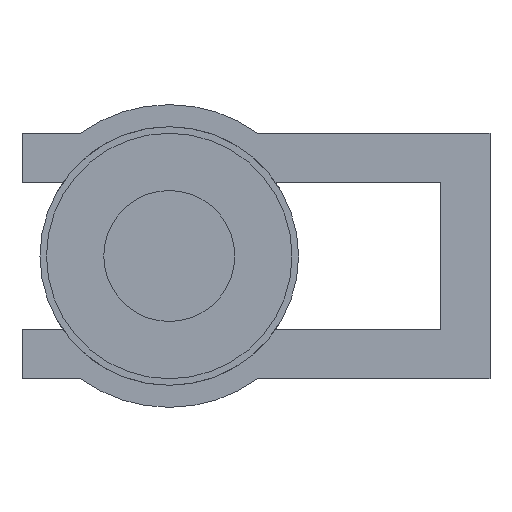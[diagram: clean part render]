
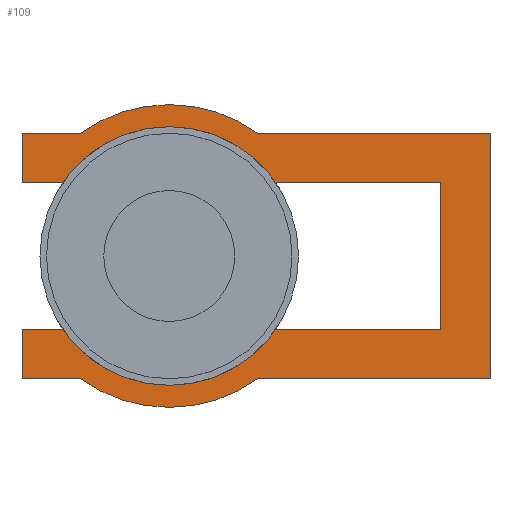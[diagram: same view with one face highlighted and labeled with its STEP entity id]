
A CAD part, left-side view. The second image highlights one B-rep face of the part: STEP entity #109.
In plain terms, the highlighted planar face has unit normal (-1, 0, 0).
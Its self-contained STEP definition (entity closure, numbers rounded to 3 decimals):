
#109=ADVANCED_FACE('',(#212),#213,.F.);
#212=FACE_OUTER_BOUND('',#349,.T.);
#213=PLANE('',#350);
#349=EDGE_LOOP('',(#633,#634,#635,#636,#637,#638,#639,#640,#641,#642,#643,#644,#645,#646,#647,#648));
#350=AXIS2_PLACEMENT_3D('',#649,#650,#651);
#633=ORIENTED_EDGE('',*,*,#920,.F.);
#634=ORIENTED_EDGE('',*,*,#921,.T.);
#635=ORIENTED_EDGE('',*,*,#895,.F.);
#636=ORIENTED_EDGE('',*,*,#922,.F.);
#637=ORIENTED_EDGE('',*,*,#828,.F.);
#638=ORIENTED_EDGE('',*,*,#923,.T.);
#639=ORIENTED_EDGE('',*,*,#891,.F.);
#640=ORIENTED_EDGE('',*,*,#924,.F.);
#641=ORIENTED_EDGE('',*,*,#915,.F.);
#642=ORIENTED_EDGE('',*,*,#831,.F.);
#643=ORIENTED_EDGE('',*,*,#824,.F.);
#644=ORIENTED_EDGE('',*,*,#925,.F.);
#645=ORIENTED_EDGE('',*,*,#843,.F.);
#646=ORIENTED_EDGE('',*,*,#889,.F.);
#647=ORIENTED_EDGE('',*,*,#926,.F.);
#648=ORIENTED_EDGE('',*,*,#927,.F.);
#649=CARTESIAN_POINT('',(-16.4,0.0,0.0));
#650=DIRECTION('',(1.0,0.0,0.0));
#651=DIRECTION('',(0.0,1.0,0.0));
#824=EDGE_CURVE('',#951,#953,#954,.T.);
#828=EDGE_CURVE('',#959,#961,#962,.T.);
#831=EDGE_CURVE('',#953,#966,#967,.T.);
#843=EDGE_CURVE('',#988,#990,#991,.T.);
#889=EDGE_CURVE('',#1077,#988,#1079,.T.);
#891=EDGE_CURVE('',#1080,#1082,#1083,.T.);
#895=EDGE_CURVE('',#1087,#1089,#1090,.T.);
#915=EDGE_CURVE('',#966,#1120,#1121,.T.);
#920=EDGE_CURVE('',#1127,#1128,#1129,.T.);
#921=EDGE_CURVE('',#1127,#1089,#1130,.T.);
#922=EDGE_CURVE('',#961,#1087,#1131,.T.);
#923=EDGE_CURVE('',#959,#1082,#1132,.T.);
#924=EDGE_CURVE('',#1120,#1080,#1133,.T.);
#925=EDGE_CURVE('',#990,#951,#1134,.T.);
#926=EDGE_CURVE('',#1135,#1077,#1136,.T.);
#927=EDGE_CURVE('',#1128,#1135,#1137,.T.);
#951=VERTEX_POINT('',#1168);
#953=VERTEX_POINT('',#1171);
#954=LINE('',#1172,#1173);
#959=VERTEX_POINT('',#1180);
#961=VERTEX_POINT('',#1183);
#962=LINE('',#1184,#1185);
#966=VERTEX_POINT('',#1190);
#967=CIRCLE('',#1191,9.25);
#988=VERTEX_POINT('',#1214);
#990=VERTEX_POINT('',#1217);
#991=LINE('',#1218,#1219);
#1077=VERTEX_POINT('',#1334);
#1079=CIRCLE('',#1337,9.25);
#1080=VERTEX_POINT('',#1338);
#1082=VERTEX_POINT('',#1341);
#1083=LINE('',#1342,#1343);
#1087=VERTEX_POINT('',#1349);
#1089=VERTEX_POINT('',#1352);
#1090=LINE('',#1353,#1354);
#1120=VERTEX_POINT('',#1398);
#1121=LINE('',#1399,#1400);
#1127=VERTEX_POINT('',#1410);
#1128=VERTEX_POINT('',#1411);
#1129=LINE('',#1412,#1413);
#1130=CIRCLE('',#1414,7.9);
#1131=LINE('',#1415,#1416);
#1132=CIRCLE('',#1417,7.9);
#1133=LINE('',#1418,#1419);
#1134=LINE('',#1420,#1421);
#1135=VERTEX_POINT('',#1422);
#1136=LINE('',#1423,#1424);
#1137=LINE('',#1425,#1426);
#1168=CARTESIAN_POINT('',(-16.4,-19.6,-7.5));
#1171=CARTESIAN_POINT('',(-16.4,-5.414,-7.5));
#1172=CARTESIAN_POINT('',(-16.4,-19.6,-7.5));
#1173=VECTOR('',#1470,1.0);
#1180=CARTESIAN_POINT('',(-16.4,-6.493,-4.5));
#1183=CARTESIAN_POINT('',(-16.4,-16.6,-4.5));
#1184=CARTESIAN_POINT('',(-16.4,-4.337,-4.5));
#1185=VECTOR('',#1474,1.0);
#1190=CARTESIAN_POINT('',(-16.4,5.414,-7.5));
#1191=AXIS2_PLACEMENT_3D('',#1479,#1480,#1481);
#1214=CARTESIAN_POINT('',(-16.4,-5.414,7.5));
#1217=CARTESIAN_POINT('',(-16.4,-19.6,7.5));
#1218=CARTESIAN_POINT('',(-16.4,-5.414,7.5));
#1219=VECTOR('',#1509,1.0);
#1334=CARTESIAN_POINT('',(-16.4,5.414,7.5));
#1337=AXIS2_PLACEMENT_3D('',#1585,#1586,#1587);
#1338=CARTESIAN_POINT('',(-16.4,9.0,-4.5));
#1341=CARTESIAN_POINT('',(-16.4,6.493,-4.5));
#1342=CARTESIAN_POINT('',(-16.4,9.0,-4.5));
#1343=VECTOR('',#1589,1.0);
#1349=CARTESIAN_POINT('',(-16.4,-16.6,4.5));
#1352=CARTESIAN_POINT('',(-16.4,-6.493,4.5));
#1353=CARTESIAN_POINT('',(-16.4,-16.6,4.5));
#1354=VECTOR('',#1593,1.0);
#1398=CARTESIAN_POINT('',(-16.4,9.0,-7.5));
#1399=CARTESIAN_POINT('',(-16.4,5.414,-7.5));
#1400=VECTOR('',#1623,1.0);
#1410=CARTESIAN_POINT('',(-16.4,6.493,4.5));
#1411=CARTESIAN_POINT('',(-16.4,9.0,4.5));
#1412=CARTESIAN_POINT('',(-16.4,4.337,4.5));
#1413=VECTOR('',#1628,1.0);
#1414=AXIS2_PLACEMENT_3D('',#1629,#1630,#1631);
#1415=CARTESIAN_POINT('',(-16.4,-16.6,-4.5));
#1416=VECTOR('',#1632,1.0);
#1417=AXIS2_PLACEMENT_3D('',#1633,#1634,#1635);
#1418=CARTESIAN_POINT('',(-16.4,9.0,-7.5));
#1419=VECTOR('',#1636,1.0);
#1420=CARTESIAN_POINT('',(-16.4,-19.6,7.5));
#1421=VECTOR('',#1637,1.0);
#1422=CARTESIAN_POINT('',(-16.4,9.0,7.5));
#1423=CARTESIAN_POINT('',(-16.4,9.0,7.5));
#1424=VECTOR('',#1638,1.0);
#1425=CARTESIAN_POINT('',(-16.4,9.0,4.5));
#1426=VECTOR('',#1639,1.0);
#1470=DIRECTION('',(0.0,1.0,0.0));
#1474=DIRECTION('',(0.0,-1.0,0.0));
#1479=CARTESIAN_POINT('',(-16.4,0.0,0.));
#1480=DIRECTION('',(1.0,0.0,0.0));
#1481=DIRECTION('',(0.0,0.0,-1.0));
#1509=DIRECTION('',(0.0,-1.0,0.0));
#1585=CARTESIAN_POINT('',(-16.4,0.0,0.0));
#1586=DIRECTION('',(1.0,0.0,0.0));
#1587=DIRECTION('',(0.0,0.0,-1.0));
#1589=DIRECTION('',(0.0,-1.0,0.0));
#1593=DIRECTION('',(0.0,1.0,0.0));
#1623=DIRECTION('',(0.0,1.0,0.0));
#1628=DIRECTION('',(0.0,1.0,0.0));
#1629=CARTESIAN_POINT('',(-16.4,0.,0.0));
#1630=DIRECTION('',(1.0,0.0,0.0));
#1631=DIRECTION('',(0.0,0.0,-1.0));
#1632=DIRECTION('',(0.0,0.0,1.0));
#1633=CARTESIAN_POINT('',(-16.4,0.,0.0));
#1634=DIRECTION('',(1.0,0.0,0.0));
#1635=DIRECTION('',(0.0,0.0,-1.0));
#1636=DIRECTION('',(0.0,0.0,1.0));
#1637=DIRECTION('',(0.0,0.0,-1.0));
#1638=DIRECTION('',(0.0,-1.0,0.0));
#1639=DIRECTION('',(0.0,0.0,1.0));
